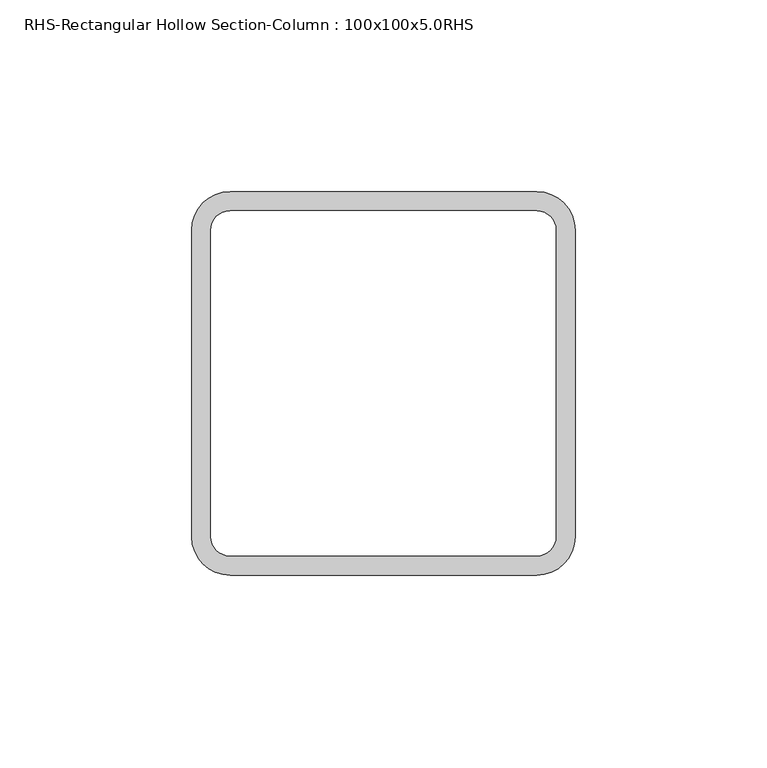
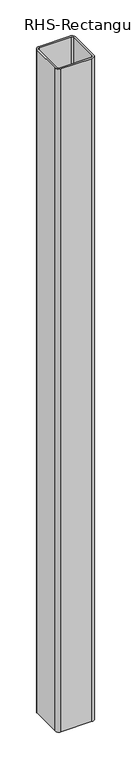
"""IFC4 building model written with IfcOpenShell, lengths in millimetres: column geometry, RHS-Rectangular Hollow Section-Column : 100x100x5.0RHS."""

from ifc_helpers import new_model, si_unit, point, frame, frame_2d, origin, place, context, project, spatial, polyline, circle_curve, trimmed, segment, composite_curve, outline, extrude, source, transform, mapped, element, save


def rhs_rectangular_hollow_section_column_100x100x5_0rhs_4e292c9f(model_context):
    return source(origin(), model_context, "Body", "SweptSolid", [
        extrude(outline(composite_curve([segment(trimmed(circle_curve(frame_2d((40.0, 40.0)), 10.0), [point((40.0, 50.0))], [point((50.0, 40.0))], False, "CARTESIAN"), True, "CONTINUOUS"), segment(polyline([(50.0, 40.0), (50.0, -40.0)]), True, "CONTINUOUS"), segment(trimmed(circle_curve(frame_2d((40.0, -40.0)), 10.0), [point((50.0, -40.0))], [point((40.0, -50.0))], False, "CARTESIAN"), True, "CONTINUOUS"), segment(polyline([(40.0, -50.0), (-40.0, -50.0)]), True, "CONTINUOUS"), segment(trimmed(circle_curve(frame_2d((-40.0, -40.0)), 10.0), [point((-40.0, -50.0))], [point((-50.0, -40.0))], False, "CARTESIAN"), True, "CONTINUOUS"), segment(polyline([(-50.0, -40.0), (-50.0, 40.0)]), True, "CONTINUOUS"), segment(trimmed(circle_curve(frame_2d((-40.0, 40.0)), 10.0), [point((-50.0, 40.0))], [point((-40.0, 50.0))], False, "CARTESIAN"), True, "CONTINUOUS"), segment(polyline([(-40.0, 50.0), (40.0, 50.0)]), True, "CONTINUOUS")], self_intersect=False), holes=[composite_curve([segment(polyline([(40.0, 45.0), (-40.0, 45.0)]), True, "CONTINUOUS"), segment(trimmed(circle_curve(frame_2d((-40.0, 40.0)), 5.0), [point((-40.0, 45.0))], [point((-45.0, 40.0))], True, "CARTESIAN"), True, "CONTINUOUS"), segment(polyline([(-45.0, 40.0), (-45.0, -40.0)]), True, "CONTINUOUS"), segment(trimmed(circle_curve(frame_2d((-40.0, -40.0)), 5.0), [point((-45.0, -40.0))], [point((-40.0, -45.0))], True, "CARTESIAN"), True, "CONTINUOUS"), segment(polyline([(-40.0, -45.0), (40.0, -45.0)]), True, "CONTINUOUS"), segment(trimmed(circle_curve(frame_2d((40.0, -40.0)), 5.0), [point((40.0, -45.0))], [point((45.0, -40.0))], True, "CARTESIAN"), True, "CONTINUOUS"), segment(polyline([(45.0, -40.0), (45.0, 40.0)]), True, "CONTINUOUS"), segment(trimmed(circle_curve(frame_2d((40.0, 40.0)), 5.0), [point((45.0, 40.0))], [point((40.0, 45.0))], True, "CARTESIAN"), True, "CONTINUOUS")], self_intersect=False)]), frame((0.0, 0.0, 22110.0), z_axis=(0.0, 0.0, 1.0), x_axis=(1.0, 0.0, 0.0)), (0.0, 0.0, 1.0), 1800.0),
    ])


if __name__ == "__main__":
    model = new_model("IFC4")
    model_context = context("Model", 3, world=origin())
    ifc_project = project(units=[si_unit("LENGTHUNIT", "METRE", prefix="MILLI")], contexts=[model_context])
    site = spatial("IfcSite", under=ifc_project)
    building = spatial("IfcBuilding", under=site)
    placement = place(None, origin())
    rhs_rectangular_hollow_section_column_100x100x5_0rhs_shape = rhs_rectangular_hollow_section_column_100x100x5_0rhs_4e292c9f(model_context)
    element("IfcColumn", 1, ObjectType="RHS-Rectangular Hollow Section-Column : 100x100x5.0RHS", at=placement, inside=building, context=model_context, shape_type="MappedRepresentation", body=[
        mapped(rhs_rectangular_hollow_section_column_100x100x5_0rhs_shape, transform((0.0, 0.0, 0.0), x_axis=(1.0, 0.0, 0.0), y_axis=(0.0, 1.0, 0.0), z_axis=(0.0, 0.0, 1.0))),
    ])
    save(model, "model.ifc")
